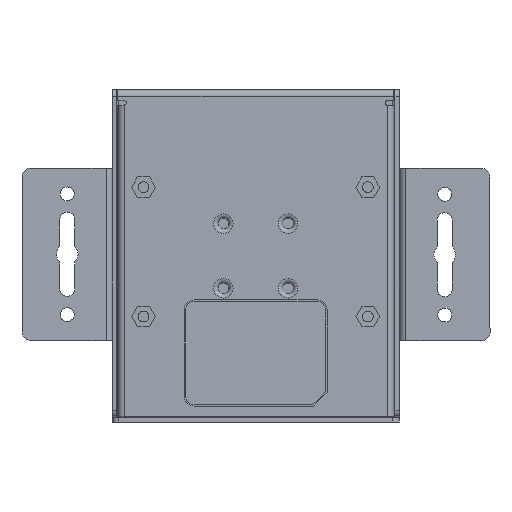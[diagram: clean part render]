
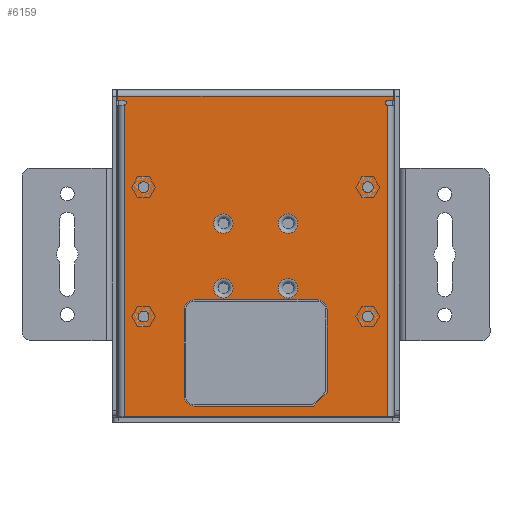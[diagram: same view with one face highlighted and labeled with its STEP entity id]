
A CAD part, front view. The second image highlights one B-rep face of the part: STEP entity #6159.
In plain terms, the highlighted planar face has unit normal (0, -1, 0).
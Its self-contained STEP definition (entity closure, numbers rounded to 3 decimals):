
#227=FACE_BOUND('',#1338,.T.);
#228=FACE_BOUND('',#1339,.T.);
#229=FACE_BOUND('',#1340,.T.);
#230=FACE_BOUND('',#1341,.T.);
#231=FACE_BOUND('',#1342,.T.);
#232=FACE_BOUND('',#1343,.T.);
#233=FACE_BOUND('',#1344,.T.);
#234=FACE_BOUND('',#1345,.T.);
#235=FACE_BOUND('',#1346,.T.);
#430=CIRCLE('',#6680,0.5);
#431=CIRCLE('',#6681,0.5);
#432=CIRCLE('',#6682,1.25);
#433=CIRCLE('',#6683,1.25);
#434=CIRCLE('',#6684,1.25);
#435=CIRCLE('',#6685,1.25);
#436=CIRCLE('',#6686,2.25);
#437=CIRCLE('',#6687,2.25);
#438=CIRCLE('',#6688,2.25);
#439=CIRCLE('',#6689,2.25);
#440=CIRCLE('',#6690,2.3);
#441=CIRCLE('',#6691,2.3);
#442=CIRCLE('',#6692,2.3);
#930=FACE_OUTER_BOUND('',#1337,.T.);
#1337=EDGE_LOOP('',(#4651,#4652,#4653,#4654,#4655,#4656,#4657,#4658,#4659,
#4660));
#1338=EDGE_LOOP('',(#4661));
#1339=EDGE_LOOP('',(#4662));
#1340=EDGE_LOOP('',(#4663));
#1341=EDGE_LOOP('',(#4664));
#1342=EDGE_LOOP('',(#4665));
#1343=EDGE_LOOP('',(#4666));
#1344=EDGE_LOOP('',(#4667));
#1345=EDGE_LOOP('',(#4668));
#1346=EDGE_LOOP('',(#4669,#4670,#4671,#4672,#4673,#4674,#4675,#4676));
#1807=LINE('',#9930,#2320);
#1808=LINE('',#9932,#2321);
#1809=LINE('',#9934,#2322);
#1810=LINE('',#9936,#2323);
#1811=LINE('',#9938,#2324);
#1812=LINE('',#9942,#2325);
#1813=LINE('',#9944,#2326);
#1814=LINE('',#9945,#2327);
#1815=LINE('',#9964,#2328);
#1816=LINE('',#9968,#2329);
#1817=LINE('',#9972,#2330);
#1818=LINE('',#9974,#2331);
#1819=LINE('',#9976,#2332);
#2320=VECTOR('',#7711,1.5);
#2321=VECTOR('',#7712,1.);
#2322=VECTOR('',#7713,64.);
#2323=VECTOR('',#7714,1.);
#2324=VECTOR('',#7715,1.5);
#2325=VECTOR('',#7718,72.3);
#2326=VECTOR('',#7719,61.);
#2327=VECTOR('',#7720,72.3);
#2328=VECTOR('',#7737,20.);
#2329=VECTOR('',#7740,28.5);
#2330=VECTOR('',#7743,19.124);
#2331=VECTOR('',#7744,4.491);
#2332=VECTOR('',#7745,27.624);
#2851=VERTEX_POINT('',#9926);
#2852=VERTEX_POINT('',#9927);
#2853=VERTEX_POINT('',#9929);
#2854=VERTEX_POINT('',#9931);
#2855=VERTEX_POINT('',#9933);
#2856=VERTEX_POINT('',#9935);
#2857=VERTEX_POINT('',#9937);
#2858=VERTEX_POINT('',#9939);
#2859=VERTEX_POINT('',#9941);
#2860=VERTEX_POINT('',#9943);
#2861=VERTEX_POINT('',#9946);
#2862=VERTEX_POINT('',#9948);
#2863=VERTEX_POINT('',#9950);
#2864=VERTEX_POINT('',#9952);
#2865=VERTEX_POINT('',#9954);
#2866=VERTEX_POINT('',#9956);
#2867=VERTEX_POINT('',#9958);
#2868=VERTEX_POINT('',#9960);
#2869=VERTEX_POINT('',#9962);
#2870=VERTEX_POINT('',#9963);
#2871=VERTEX_POINT('',#9965);
#2872=VERTEX_POINT('',#9967);
#2873=VERTEX_POINT('',#9969);
#2874=VERTEX_POINT('',#9971);
#2875=VERTEX_POINT('',#9973);
#2876=VERTEX_POINT('',#9975);
#3509=EDGE_CURVE('',#2851,#2852,#430,.T.);
#3510=EDGE_CURVE('',#2853,#2851,#1807,.T.);
#3511=EDGE_CURVE('',#2854,#2853,#1808,.T.);
#3512=EDGE_CURVE('',#2855,#2854,#1809,.T.);
#3513=EDGE_CURVE('',#2856,#2855,#1810,.T.);
#3514=EDGE_CURVE('',#2856,#2857,#1811,.T.);
#3515=EDGE_CURVE('',#2858,#2857,#431,.T.);
#3516=EDGE_CURVE('',#2859,#2858,#1812,.T.);
#3517=EDGE_CURVE('',#2860,#2859,#1813,.T.);
#3518=EDGE_CURVE('',#2852,#2860,#1814,.T.);
#3519=EDGE_CURVE('',#2861,#2861,#432,.T.);
#3520=EDGE_CURVE('',#2862,#2862,#433,.T.);
#3521=EDGE_CURVE('',#2863,#2863,#434,.T.);
#3522=EDGE_CURVE('',#2864,#2864,#435,.T.);
#3523=EDGE_CURVE('',#2865,#2865,#436,.T.);
#3524=EDGE_CURVE('',#2866,#2866,#437,.T.);
#3525=EDGE_CURVE('',#2867,#2867,#438,.T.);
#3526=EDGE_CURVE('',#2868,#2868,#439,.T.);
#3527=EDGE_CURVE('',#2869,#2870,#1815,.T.);
#3528=EDGE_CURVE('',#2871,#2869,#440,.T.);
#3529=EDGE_CURVE('',#2872,#2871,#1816,.T.);
#3530=EDGE_CURVE('',#2873,#2872,#441,.T.);
#3531=EDGE_CURVE('',#2874,#2873,#1817,.T.);
#3532=EDGE_CURVE('',#2875,#2874,#1818,.T.);
#3533=EDGE_CURVE('',#2876,#2875,#1819,.T.);
#3534=EDGE_CURVE('',#2870,#2876,#442,.T.);
#4651=ORIENTED_EDGE('',*,*,#3509,.F.);
#4652=ORIENTED_EDGE('',*,*,#3510,.F.);
#4653=ORIENTED_EDGE('',*,*,#3511,.F.);
#4654=ORIENTED_EDGE('',*,*,#3512,.F.);
#4655=ORIENTED_EDGE('',*,*,#3513,.F.);
#4656=ORIENTED_EDGE('',*,*,#3514,.T.);
#4657=ORIENTED_EDGE('',*,*,#3515,.F.);
#4658=ORIENTED_EDGE('',*,*,#3516,.F.);
#4659=ORIENTED_EDGE('',*,*,#3517,.F.);
#4660=ORIENTED_EDGE('',*,*,#3518,.F.);
#4661=ORIENTED_EDGE('',*,*,#3519,.T.);
#4662=ORIENTED_EDGE('',*,*,#3520,.T.);
#4663=ORIENTED_EDGE('',*,*,#3521,.T.);
#4664=ORIENTED_EDGE('',*,*,#3522,.T.);
#4665=ORIENTED_EDGE('',*,*,#3523,.F.);
#4666=ORIENTED_EDGE('',*,*,#3524,.F.);
#4667=ORIENTED_EDGE('',*,*,#3525,.F.);
#4668=ORIENTED_EDGE('',*,*,#3526,.F.);
#4669=ORIENTED_EDGE('',*,*,#3527,.F.);
#4670=ORIENTED_EDGE('',*,*,#3528,.F.);
#4671=ORIENTED_EDGE('',*,*,#3529,.F.);
#4672=ORIENTED_EDGE('',*,*,#3530,.F.);
#4673=ORIENTED_EDGE('',*,*,#3531,.F.);
#4674=ORIENTED_EDGE('',*,*,#3532,.F.);
#4675=ORIENTED_EDGE('',*,*,#3533,.F.);
#4676=ORIENTED_EDGE('',*,*,#3534,.F.);
#5937=PLANE('',#6679);
#6159=ADVANCED_FACE('',(#930,#227,#228,#229,#230,#231,#232,#233,#234,#235),
#5937,.F.);
#6679=AXIS2_PLACEMENT_3D('',#9925,#7707,#7708);
#6680=AXIS2_PLACEMENT_3D('',#9928,#7709,#7710);
#6681=AXIS2_PLACEMENT_3D('',#9940,#7716,#7717);
#6682=AXIS2_PLACEMENT_3D('',#9947,#7721,#7722);
#6683=AXIS2_PLACEMENT_3D('',#9949,#7723,#7724);
#6684=AXIS2_PLACEMENT_3D('',#9951,#7725,#7726);
#6685=AXIS2_PLACEMENT_3D('',#9953,#7727,#7728);
#6686=AXIS2_PLACEMENT_3D('',#9955,#7729,#7730);
#6687=AXIS2_PLACEMENT_3D('',#9957,#7731,#7732);
#6688=AXIS2_PLACEMENT_3D('',#9959,#7733,#7734);
#6689=AXIS2_PLACEMENT_3D('',#9961,#7735,#7736);
#6690=AXIS2_PLACEMENT_3D('',#9966,#7738,#7739);
#6691=AXIS2_PLACEMENT_3D('',#9970,#7741,#7742);
#6692=AXIS2_PLACEMENT_3D('',#9977,#7746,#7747);
#7707=DIRECTION('center_axis',(0.,1.,0.));
#7708=DIRECTION('ref_axis',(1.,0.,0.));
#7709=DIRECTION('center_axis',(0.,-1.,0.));
#7710=DIRECTION('ref_axis',(0.,0.,1.));
#7711=DIRECTION('',(-1.,0.,0.));
#7712=DIRECTION('',(0.,0.,-1.));
#7713=DIRECTION('',(1.,0.,0.));
#7714=DIRECTION('',(0.,0.,1.));
#7715=DIRECTION('',(1.,0.,0.));
#7716=DIRECTION('center_axis',(0.,-1.,0.));
#7717=DIRECTION('ref_axis',(0.,0.,-1.));
#7718=DIRECTION('',(0.,0.,1.));
#7719=DIRECTION('',(-1.,0.,0.));
#7720=DIRECTION('',(0.,0.,-1.));
#7721=DIRECTION('center_axis',(0.,1.,0.));
#7722=DIRECTION('ref_axis',(1.,0.,0.));
#7723=DIRECTION('center_axis',(0.,1.,0.));
#7724=DIRECTION('ref_axis',(1.,0.,0.));
#7725=DIRECTION('center_axis',(0.,1.,0.));
#7726=DIRECTION('ref_axis',(1.,0.,0.));
#7727=DIRECTION('center_axis',(0.,1.,0.));
#7728=DIRECTION('ref_axis',(1.,0.,0.));
#7729=DIRECTION('center_axis',(0.,-1.,0.));
#7730=DIRECTION('ref_axis',(0.,0.,-1.));
#7731=DIRECTION('center_axis',(0.,-1.,0.));
#7732=DIRECTION('ref_axis',(0.,0.,1.));
#7733=DIRECTION('center_axis',(0.,-1.,0.));
#7734=DIRECTION('ref_axis',(0.,0.,1.));
#7735=DIRECTION('center_axis',(0.,-1.,0.));
#7736=DIRECTION('ref_axis',(0.,0.,1.));
#7737=DIRECTION('',(0.,0.,-1.));
#7738=DIRECTION('center_axis',(0.,-1.,0.));
#7739=DIRECTION('ref_axis',(0.,0.,1.));
#7740=DIRECTION('',(-1.,0.,0.));
#7741=DIRECTION('center_axis',(0.,-1.,0.));
#7742=DIRECTION('ref_axis',(1.,0.,0.));
#7743=DIRECTION('',(0.,0.,1.));
#7744=DIRECTION('',(0.707,0.,0.707));
#7745=DIRECTION('',(1.,0.,0.));
#7746=DIRECTION('center_axis',(0.,-1.,0.));
#7747=DIRECTION('ref_axis',(-1.,0.,0.));
#9925=CARTESIAN_POINT('Origin',(0.,-26.5,0.));
#9926=CARTESIAN_POINT('',(30.5,-26.5,36.));
#9927=CARTESIAN_POINT('',(30.5,-26.5,35.));
#9928=CARTESIAN_POINT('Origin',(30.5,-26.5,35.5));
#9929=CARTESIAN_POINT('',(32.,-26.5,36.));
#9930=CARTESIAN_POINT('',(32.,-26.5,36.));
#9931=CARTESIAN_POINT('',(32.,-26.5,37.));
#9932=CARTESIAN_POINT('',(32.,-26.5,37.));
#9933=CARTESIAN_POINT('',(-32.,-26.5,37.));
#9934=CARTESIAN_POINT('',(-32.,-26.5,37.));
#9935=CARTESIAN_POINT('',(-32.,-26.5,36.));
#9936=CARTESIAN_POINT('',(-32.,-26.5,36.));
#9937=CARTESIAN_POINT('',(-30.5,-26.5,36.));
#9938=CARTESIAN_POINT('',(-32.,-26.5,36.));
#9939=CARTESIAN_POINT('',(-30.5,-26.5,35.));
#9940=CARTESIAN_POINT('Origin',(-30.5,-26.5,35.5));
#9941=CARTESIAN_POINT('',(-30.5,-26.5,-37.3));
#9942=CARTESIAN_POINT('',(-30.5,-26.5,-37.3));
#9943=CARTESIAN_POINT('',(30.5,-26.5,-37.3));
#9944=CARTESIAN_POINT('',(30.5,-26.5,-37.3));
#9945=CARTESIAN_POINT('',(30.5,-26.5,35.));
#9946=CARTESIAN_POINT('',(-27.25,-26.5,15.95));
#9947=CARTESIAN_POINT('Origin',(-26.,-26.5,15.95));
#9948=CARTESIAN_POINT('',(24.75,-26.5,15.95));
#9949=CARTESIAN_POINT('Origin',(26.,-26.5,15.95));
#9950=CARTESIAN_POINT('',(24.75,-26.5,-14.05));
#9951=CARTESIAN_POINT('Origin',(26.,-26.5,-14.05));
#9952=CARTESIAN_POINT('',(-27.25,-26.5,-14.05));
#9953=CARTESIAN_POINT('Origin',(-26.,-26.5,-14.05));
#9954=CARTESIAN_POINT('',(7.5,-26.5,-9.75));
#9955=CARTESIAN_POINT('Origin',(7.5,-26.5,-7.5));
#9956=CARTESIAN_POINT('',(7.5,-26.5,9.75));
#9957=CARTESIAN_POINT('Origin',(7.5,-26.5,7.5));
#9958=CARTESIAN_POINT('',(-7.5,-26.5,9.75));
#9959=CARTESIAN_POINT('Origin',(-7.5,-26.5,7.5));
#9960=CARTESIAN_POINT('',(-7.5,-26.5,-5.25));
#9961=CARTESIAN_POINT('Origin',(-7.5,-26.5,-7.5));
#9962=CARTESIAN_POINT('',(-16.55,-26.5,-12.5));
#9963=CARTESIAN_POINT('',(-16.55,-26.5,-32.5));
#9964=CARTESIAN_POINT('',(-16.55,-26.5,-12.5));
#9965=CARTESIAN_POINT('',(-14.25,-26.5,-10.2));
#9966=CARTESIAN_POINT('Origin',(-14.25,-26.5,-12.5));
#9967=CARTESIAN_POINT('',(14.25,-26.5,-10.2));
#9968=CARTESIAN_POINT('',(14.25,-26.5,-10.2));
#9969=CARTESIAN_POINT('',(16.55,-26.5,-12.5));
#9970=CARTESIAN_POINT('Origin',(14.25,-26.5,-12.5));
#9971=CARTESIAN_POINT('',(16.55,-26.5,-31.624));
#9972=CARTESIAN_POINT('',(16.55,-26.5,-31.624));
#9973=CARTESIAN_POINT('',(13.374,-26.5,-34.8));
#9974=CARTESIAN_POINT('',(13.374,-26.5,-34.8));
#9975=CARTESIAN_POINT('',(-14.25,-26.5,-34.8));
#9976=CARTESIAN_POINT('',(-14.25,-26.5,-34.8));
#9977=CARTESIAN_POINT('Origin',(-14.25,-26.5,-32.5));
